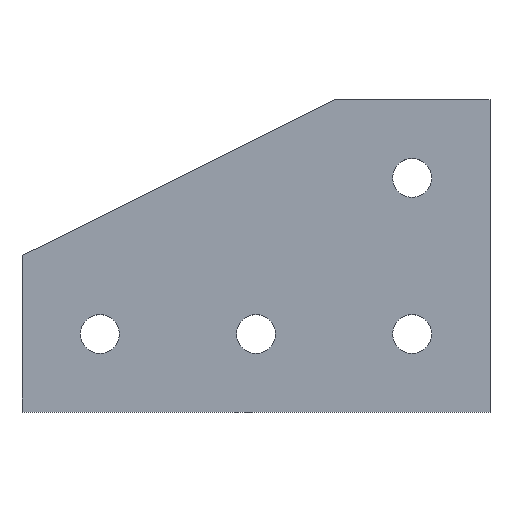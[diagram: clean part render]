
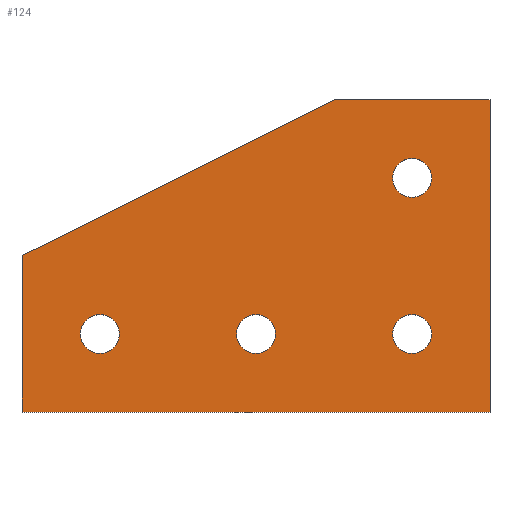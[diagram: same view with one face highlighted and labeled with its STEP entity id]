
A CAD part, top view. The second image highlights one B-rep face of the part: STEP entity #124.
In plain terms, the highlighted planar face has unit normal (0, 0, 1).
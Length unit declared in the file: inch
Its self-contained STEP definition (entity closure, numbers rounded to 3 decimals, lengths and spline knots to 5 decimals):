
#124=ADVANCED_FACE('',(#250,#251,#252,#253,#254),#255,.T.);
#250=FACE_BOUND('',#497,.T.);
#251=FACE_BOUND('',#498,.T.);
#252=FACE_BOUND('',#499,.T.);
#253=FACE_BOUND('',#500,.T.);
#254=FACE_OUTER_BOUND('',#501,.T.);
#255=PLANE('',#502);
#497=EDGE_LOOP('',(#760,#761,#762,#763));
#498=EDGE_LOOP('',(#764,#765,#766,#767));
#499=EDGE_LOOP('',(#768,#769,#770,#771));
#500=EDGE_LOOP('',(#772,#773,#774,#775));
#501=EDGE_LOOP('',(#776,#777,#778,#779,#780));
#502=AXIS2_PLACEMENT_3D('',#781,#782,#783);
#760=ORIENTED_EDGE('',*,*,#908,.F.);
#761=ORIENTED_EDGE('',*,*,#892,.F.);
#762=ORIENTED_EDGE('',*,*,#888,.F.);
#763=ORIENTED_EDGE('',*,*,#883,.F.);
#764=ORIENTED_EDGE('',*,*,#878,.F.);
#765=ORIENTED_EDGE('',*,*,#909,.F.);
#766=ORIENTED_EDGE('',*,*,#855,.F.);
#767=ORIENTED_EDGE('',*,*,#910,.F.);
#768=ORIENTED_EDGE('',*,*,#850,.F.);
#769=ORIENTED_EDGE('',*,*,#911,.F.);
#770=ORIENTED_EDGE('',*,*,#912,.F.);
#771=ORIENTED_EDGE('',*,*,#870,.F.);
#772=ORIENTED_EDGE('',*,*,#913,.F.);
#773=ORIENTED_EDGE('',*,*,#845,.F.);
#774=ORIENTED_EDGE('',*,*,#914,.F.);
#775=ORIENTED_EDGE('',*,*,#865,.F.);
#776=ORIENTED_EDGE('',*,*,#874,.F.);
#777=ORIENTED_EDGE('',*,*,#860,.F.);
#778=ORIENTED_EDGE('',*,*,#915,.F.);
#779=ORIENTED_EDGE('',*,*,#916,.F.);
#780=ORIENTED_EDGE('',*,*,#917,.F.);
#781=CARTESIAN_POINT('',(2.67865,1.38214,0.375));
#782=DIRECTION('',(0.0,0.0,1.0));
#783=DIRECTION('',(1.0,0.0,0.0));
#845=EDGE_CURVE('',#932,#933,#934,.T.);
#850=EDGE_CURVE('',#941,#942,#943,.T.);
#855=EDGE_CURVE('',#950,#951,#952,.T.);
#860=EDGE_CURVE('',#959,#960,#961,.T.);
#865=EDGE_CURVE('',#968,#969,#970,.T.);
#870=EDGE_CURVE('',#942,#977,#978,.T.);
#874=EDGE_CURVE('',#960,#983,#984,.T.);
#878=EDGE_CURVE('',#989,#990,#991,.T.);
#883=EDGE_CURVE('',#998,#999,#1000,.T.);
#888=EDGE_CURVE('',#999,#1007,#1008,.T.);
#892=EDGE_CURVE('',#1007,#1013,#1014,.T.);
#908=EDGE_CURVE('',#1013,#998,#1034,.T.);
#909=EDGE_CURVE('',#951,#989,#1035,.T.);
#910=EDGE_CURVE('',#990,#950,#1036,.T.);
#911=EDGE_CURVE('',#1037,#941,#1038,.T.);
#912=EDGE_CURVE('',#977,#1037,#1039,.T.);
#913=EDGE_CURVE('',#933,#968,#1040,.T.);
#914=EDGE_CURVE('',#969,#932,#1041,.T.);
#915=EDGE_CURVE('',#1042,#959,#1043,.T.);
#916=EDGE_CURVE('',#1044,#1042,#1045,.T.);
#917=EDGE_CURVE('',#983,#1044,#1046,.T.);
#932=VERTEX_POINT('',#1061);
#933=VERTEX_POINT('',#1062);
#934=B_SPLINE_CURVE_WITH_KNOTS('',3,(#1063,#1064,#1065,#1066),.UNSPECIFIED.,.F.,.F.,(4,4),(-1.0,-0.0),.UNSPECIFIED.);
#941=VERTEX_POINT('',#1078);
#942=VERTEX_POINT('',#1079);
#943=B_SPLINE_CURVE_WITH_KNOTS('',3,(#1080,#1081,#1082,#1083),.UNSPECIFIED.,.F.,.F.,(4,4),(-1.0,-0.0),.UNSPECIFIED.);
#950=VERTEX_POINT('',#1095);
#951=VERTEX_POINT('',#1096);
#952=B_SPLINE_CURVE_WITH_KNOTS('',3,(#1097,#1098,#1099,#1100),.UNSPECIFIED.,.F.,.F.,(4,4),(-1.0,-0.0),.UNSPECIFIED.);
#959=VERTEX_POINT('',#1112);
#960=VERTEX_POINT('',#1113);
#961=LINE('',#1114,#1115);
#968=VERTEX_POINT('',#1125);
#969=VERTEX_POINT('',#1126);
#970=B_SPLINE_CURVE_WITH_KNOTS('',3,(#1127,#1128,#1129,#1130),.UNSPECIFIED.,.F.,.F.,(4,4),(-1.0,-0.0),.UNSPECIFIED.);
#977=VERTEX_POINT('',#1142);
#978=B_SPLINE_CURVE_WITH_KNOTS('',3,(#1143,#1144,#1145,#1146),.UNSPECIFIED.,.F.,.F.,(4,4),(-1.0,-0.0),.UNSPECIFIED.);
#983=VERTEX_POINT('',#1155);
#984=LINE('',#1156,#1157);
#989=VERTEX_POINT('',#1164);
#990=VERTEX_POINT('',#1165);
#991=B_SPLINE_CURVE_WITH_KNOTS('',3,(#1166,#1167,#1168,#1169),.UNSPECIFIED.,.F.,.F.,(4,4),(-1.0,-0.0),.UNSPECIFIED.);
#998=VERTEX_POINT('',#1181);
#999=VERTEX_POINT('',#1182);
#1000=B_SPLINE_CURVE_WITH_KNOTS('',3,(#1183,#1184,#1185,#1186),.UNSPECIFIED.,.F.,.F.,(4,4),(-1.0,-0.0),.UNSPECIFIED.);
#1007=VERTEX_POINT('',#1198);
#1008=B_SPLINE_CURVE_WITH_KNOTS('',3,(#1199,#1200,#1201,#1202),.UNSPECIFIED.,.F.,.F.,(4,4),(-1.0,-0.0),.UNSPECIFIED.);
#1013=VERTEX_POINT('',#1211);
#1014=B_SPLINE_CURVE_WITH_KNOTS('',3,(#1212,#1213,#1214,#1215),.UNSPECIFIED.,.F.,.F.,(4,4),(-1.0,-0.0),.UNSPECIFIED.);
#1034=B_SPLINE_CURVE_WITH_KNOTS('',3,(#1263,#1264,#1265,#1266),.UNSPECIFIED.,.F.,.F.,(4,4),(-1.0,-0.0),.UNSPECIFIED.);
#1035=B_SPLINE_CURVE_WITH_KNOTS('',3,(#1267,#1268,#1269,#1270),.UNSPECIFIED.,.F.,.F.,(4,4),(-1.0,-0.0),.UNSPECIFIED.);
#1036=B_SPLINE_CURVE_WITH_KNOTS('',3,(#1271,#1272,#1273,#1274),.UNSPECIFIED.,.F.,.F.,(4,4),(-1.0,-0.0),.UNSPECIFIED.);
#1037=VERTEX_POINT('',#1275);
#1038=B_SPLINE_CURVE_WITH_KNOTS('',3,(#1276,#1277,#1278,#1279),.UNSPECIFIED.,.F.,.F.,(4,4),(-1.0,-0.0),.UNSPECIFIED.);
#1039=B_SPLINE_CURVE_WITH_KNOTS('',3,(#1280,#1281,#1282,#1283),.UNSPECIFIED.,.F.,.F.,(4,4),(-1.0,-0.0),.UNSPECIFIED.);
#1040=B_SPLINE_CURVE_WITH_KNOTS('',3,(#1284,#1285,#1286,#1287),.UNSPECIFIED.,.F.,.F.,(4,4),(-1.0,-0.0),.UNSPECIFIED.);
#1041=B_SPLINE_CURVE_WITH_KNOTS('',3,(#1288,#1289,#1290,#1291),.UNSPECIFIED.,.F.,.F.,(4,4),(-1.0,-0.0),.UNSPECIFIED.);
#1042=VERTEX_POINT('',#1292);
#1043=LINE('',#1293,#1294);
#1044=VERTEX_POINT('',#1295);
#1045=LINE('',#1296,#1297);
#1046=LINE('',#1298,#1299);
#1061=CARTESIAN_POINT('',(2.23336,0.81249,0.375));
#1062=CARTESIAN_POINT('',(2.43623,0.60959,0.375));
#1063=CARTESIAN_POINT('',(2.23336,0.81249,0.375));
#1064=CARTESIAN_POINT('',(2.23336,0.70049,0.375));
#1065=CARTESIAN_POINT('',(2.32425,0.60959,0.375));
#1066=CARTESIAN_POINT('',(2.43623,0.60959,0.375));
#1078=CARTESIAN_POINT('',(4.06121,2.23457,0.375));
#1079=CARTESIAN_POINT('',(4.26408,2.43747,0.375));
#1080=CARTESIAN_POINT('',(4.06121,2.23457,0.375));
#1081=CARTESIAN_POINT('',(4.1732,2.23457,0.375));
#1082=CARTESIAN_POINT('',(4.26408,2.32547,0.375));
#1083=CARTESIAN_POINT('',(4.26408,2.43747,0.375));
#1095=CARTESIAN_POINT('',(4.06121,1.01539,0.375));
#1096=CARTESIAN_POINT('',(3.85835,0.81249,0.375));
#1097=CARTESIAN_POINT('',(4.06121,1.01539,0.375));
#1098=CARTESIAN_POINT('',(3.94923,1.01539,0.375));
#1099=CARTESIAN_POINT('',(3.85835,0.92449,0.375));
#1100=CARTESIAN_POINT('',(3.85835,0.81249,0.375));
#1112=CARTESIAN_POINT('',(0.0,1.63001,0.375));
#1113=CARTESIAN_POINT('',(3.2525,3.24996,0.375));
#1114=CARTESIAN_POINT('',(3.2525,3.24996,0.375));
#1115=VECTOR('',#1322,1.0);
#1125=CARTESIAN_POINT('',(2.63909,0.81249,0.375));
#1126=CARTESIAN_POINT('',(2.43623,1.01539,0.375));
#1127=CARTESIAN_POINT('',(2.63909,0.81249,0.375));
#1128=CARTESIAN_POINT('',(2.63909,0.92449,0.375));
#1129=CARTESIAN_POINT('',(2.54822,1.01539,0.375));
#1130=CARTESIAN_POINT('',(2.43623,1.01539,0.375));
#1142=CARTESIAN_POINT('',(4.06121,2.64038,0.375));
#1143=CARTESIAN_POINT('',(4.26408,2.43747,0.375));
#1144=CARTESIAN_POINT('',(4.26408,2.54947,0.375));
#1145=CARTESIAN_POINT('',(4.1732,2.64038,0.375));
#1146=CARTESIAN_POINT('',(4.06121,2.64038,0.375));
#1155=CARTESIAN_POINT('',(4.87245,3.24996,0.375));
#1156=CARTESIAN_POINT('',(4.87245,3.24996,0.375));
#1157=VECTOR('',#1329,1.0);
#1164=CARTESIAN_POINT('',(4.06121,0.60959,0.375));
#1165=CARTESIAN_POINT('',(4.26408,0.81249,0.375));
#1166=CARTESIAN_POINT('',(4.06121,0.60959,0.375));
#1167=CARTESIAN_POINT('',(4.1732,0.60959,0.375));
#1168=CARTESIAN_POINT('',(4.26408,0.70049,0.375));
#1169=CARTESIAN_POINT('',(4.26408,0.81249,0.375));
#1181=CARTESIAN_POINT('',(1.01412,0.81249,0.375));
#1182=CARTESIAN_POINT('',(0.81125,1.01539,0.375));
#1183=CARTESIAN_POINT('',(1.01412,0.81249,0.375));
#1184=CARTESIAN_POINT('',(1.01412,0.92449,0.375));
#1185=CARTESIAN_POINT('',(0.92323,1.01539,0.375));
#1186=CARTESIAN_POINT('',(0.81125,1.01539,0.375));
#1198=CARTESIAN_POINT('',(0.60837,0.81249,0.375));
#1199=CARTESIAN_POINT('',(0.81125,1.01539,0.375));
#1200=CARTESIAN_POINT('',(0.69927,1.01539,0.375));
#1201=CARTESIAN_POINT('',(0.60837,0.92449,0.375));
#1202=CARTESIAN_POINT('',(0.60837,0.81249,0.375));
#1211=CARTESIAN_POINT('',(0.81125,0.60959,0.375));
#1212=CARTESIAN_POINT('',(0.60837,0.81249,0.375));
#1213=CARTESIAN_POINT('',(0.60837,0.70049,0.375));
#1214=CARTESIAN_POINT('',(0.69927,0.60959,0.375));
#1215=CARTESIAN_POINT('',(0.81125,0.60959,0.375));
#1263=CARTESIAN_POINT('',(0.81125,0.60959,0.375));
#1264=CARTESIAN_POINT('',(0.92323,0.60959,0.375));
#1265=CARTESIAN_POINT('',(1.01412,0.70049,0.375));
#1266=CARTESIAN_POINT('',(1.01412,0.81249,0.375));
#1267=CARTESIAN_POINT('',(3.85835,0.81249,0.375));
#1268=CARTESIAN_POINT('',(3.85835,0.70049,0.375));
#1269=CARTESIAN_POINT('',(3.94923,0.60959,0.375));
#1270=CARTESIAN_POINT('',(4.06121,0.60959,0.375));
#1271=CARTESIAN_POINT('',(4.26408,0.81249,0.375));
#1272=CARTESIAN_POINT('',(4.26408,0.92449,0.375));
#1273=CARTESIAN_POINT('',(4.1732,1.01539,0.375));
#1274=CARTESIAN_POINT('',(4.06121,1.01539,0.375));
#1275=CARTESIAN_POINT('',(3.85835,2.43747,0.375));
#1276=CARTESIAN_POINT('',(3.85835,2.43747,0.375));
#1277=CARTESIAN_POINT('',(3.85835,2.32547,0.375));
#1278=CARTESIAN_POINT('',(3.94923,2.23457,0.375));
#1279=CARTESIAN_POINT('',(4.06121,2.23457,0.375));
#1280=CARTESIAN_POINT('',(4.06121,2.64038,0.375));
#1281=CARTESIAN_POINT('',(3.94923,2.64038,0.375));
#1282=CARTESIAN_POINT('',(3.85835,2.54947,0.375));
#1283=CARTESIAN_POINT('',(3.85835,2.43747,0.375));
#1284=CARTESIAN_POINT('',(2.43623,0.60959,0.375));
#1285=CARTESIAN_POINT('',(2.54822,0.60959,0.375));
#1286=CARTESIAN_POINT('',(2.63909,0.70049,0.375));
#1287=CARTESIAN_POINT('',(2.63909,0.81249,0.375));
#1288=CARTESIAN_POINT('',(2.43623,1.01539,0.375));
#1289=CARTESIAN_POINT('',(2.32425,1.01539,0.375));
#1290=CARTESIAN_POINT('',(2.23336,0.92449,0.375));
#1291=CARTESIAN_POINT('',(2.23336,0.81249,0.375));
#1292=CARTESIAN_POINT('',(0.0,0.0,0.375));
#1293=CARTESIAN_POINT('',(0.0,1.63001,0.375));
#1294=VECTOR('',#1341,1.0);
#1295=CARTESIAN_POINT('',(4.87245,0.0,0.375));
#1296=CARTESIAN_POINT('',(0.0,0.0,0.375));
#1297=VECTOR('',#1342,1.0);
#1298=CARTESIAN_POINT('',(4.87245,0.0,0.375));
#1299=VECTOR('',#1343,1.0);
#1322=DIRECTION('',(0.895,0.446,0.0));
#1329=DIRECTION('',(1.0,0.0,0.0));
#1341=DIRECTION('',(0.0,1.0,0.0));
#1342=DIRECTION('',(-1.0,-0.0,-0.0));
#1343=DIRECTION('',(-0.0,-1.0,-0.0));
